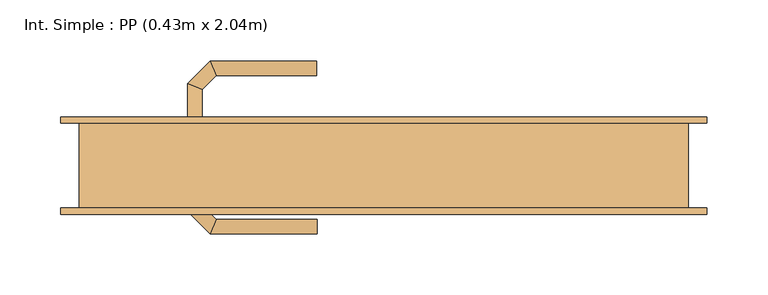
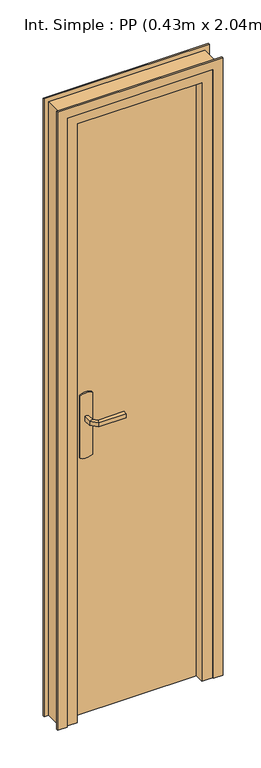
"""IFC4 building model written with IfcOpenShell, lengths in millimetres: door geometry, Int. Simple : PP (0.43m x 2.04m)."""

import ifcopenshell
import ifcopenshell.guid

model = None  # the IFC model being written
_history = None  # IfcOwnerHistory: only IFC2X3 demands one
_inside = {}  # id of a spatial element -> (the spatial element, [elements in it])
_under = {}  # id of a project, library or spatial element -> (it, [spatial elements below it])
_declared = {}  # id of a project -> (the project, [libraries it declares])
_typed = {}  # id of a type object -> (the type object, [elements of that type])
_made_of = {}  # id of a material, layer set ... -> (it, [elements and type objects made of it])


def new_model(schema):
    """Start an empty IFC model of exactly this schema.

    Asked for "IFC4X3", IfcOpenShell would pick the latest addendum, in which some entities
    have other attributes; the version numbers below select the first issue.
    IFC2X3 requires an IfcOwnerHistory on every rooted entity: one is made here for all.
    """
    global model, _history
    if schema == "IFC4X3":
        model = ifcopenshell.file(schema_version=(4, 3, 0, 0))
    else:
        model = ifcopenshell.file(schema=schema)
    _inside.clear()
    _under.clear()
    _declared.clear()
    _typed.clear()
    _made_of.clear()
    _history = None
    if model.schema == "IFC2X3":
        org = make("IfcOrganization", Name="unknown")
        user = make(
            "IfcPersonAndOrganization",
            ThePerson=make("IfcPerson", FamilyName="unknown"),
            TheOrganization=org,
        )
        app = make(
            "IfcApplication",
            ApplicationDeveloper=org,
            Version="unknown",
            ApplicationFullName="unknown",
            ApplicationIdentifier="unknown",
        )
        _history = make(
            "IfcOwnerHistory",
            OwningUser=user,
            OwningApplication=app,
            ChangeAction="ADDED",
            CreationDate=0,
        )
    return model


def make(cls, **values):
    """One entity of the class cls with the attributes given. An attribute that is None is left unset."""
    return model.create_entity(
        cls, **{name: value for name, value in values.items() if value is not None}
    )


def rooted(cls, **values):
    """An entity with a GlobalId (a new one), such as an element, a storey or a relation."""
    return make(cls, GlobalId=ifcopenshell.guid.new(), OwnerHistory=_history, **values)


def si_unit(unit_type, name, prefix=None):
    """IfcSIUnit, for example si_unit("LENGTHUNIT", "METRE", prefix="MILLI")."""
    return make("IfcSIUnit", UnitType=unit_type, Prefix=prefix, Name=name)


def assignment(units):
    """IfcUnitAssignment: the units of a project."""
    return None if units is None else make("IfcUnitAssignment", Units=units)


def point(xyz):
    """IfcCartesianPoint."""
    return None if xyz is None else make("IfcCartesianPoint", Coordinates=xyz)


def direction(xyz):
    """IfcDirection."""
    return None if xyz is None else make("IfcDirection", DirectionRatios=xyz)


def frame(location, z_axis=None, x_axis=None):
    """IfcAxis2Placement3D, a coordinate frame: its origin and axes. An axis left out is left unset."""
    return make(
        "IfcAxis2Placement3D",
        Location=point(location),
        Axis=direction(z_axis),
        RefDirection=direction(x_axis),
    )


def frame_2d(location, x_axis=None):
    """IfcAxis2Placement2D, a coordinate frame in the plane: its origin and x axis."""
    return make(
        "IfcAxis2Placement2D", Location=point(location), RefDirection=direction(x_axis)
    )


def origin():
    """The frame at (0, 0, 0) with its axes left unset."""
    return frame((0.0, 0.0, 0.0))


def origin_with_axes():
    """The frame at (0, 0, 0) with the z axis (0, 0, 1) and the x axis (1, 0, 0) written out."""
    return frame((0.0, 0.0, 0.0), z_axis=(0.0, 0.0, 1.0), x_axis=(1.0, 0.0, 0.0))


def place(relative_to, where):
    """IfcLocalPlacement: puts the frame where relative to a parent placement (None: the world)."""
    return make(
        "IfcLocalPlacement", PlacementRelTo=relative_to, RelativePlacement=where
    )


def context(
    kind, dimensions, precision=None, world=None, true_north=None, identifier=None
):
    """IfcGeometricRepresentationContext, for example the 3D "Model" context."""
    return make(
        "IfcGeometricRepresentationContext",
        ContextIdentifier=identifier,
        ContextType=kind,
        CoordinateSpaceDimension=dimensions,
        Precision=precision,
        WorldCoordinateSystem=world,
        TrueNorth=true_north,
    )


def project(units=None, contexts=None):
    """IfcProject with its units and contexts."""
    return rooted(
        "IfcProject",
        Name="project",
        RepresentationContexts=contexts,
        UnitsInContext=assignment(units),
    )


def spatial(cls, under=None, at=None, **own):
    """A site, building, storey or space (cls), placed at a placement, below another one or the project."""
    s = rooted(cls, ObjectPlacement=at, **own)
    if under is not None:
        _under.setdefault(under.id(), (under, []))[1].append(s)
    return s


def polyline(points):
    """IfcPolyline through the points."""
    return make("IfcPolyline", Points=[point(p) for p in points])


def circle_curve(where, radius):
    """IfcCircle in the frame where."""
    return make("IfcCircle", Position=where, Radius=radius)


def ellipse_curve(where, semi_axis1, semi_axis2):
    """IfcEllipse in the frame where."""
    return make(
        "IfcEllipse", Position=where, SemiAxis1=semi_axis1, SemiAxis2=semi_axis2
    )


def trimmed(basis, trim1, trim2, sense, master):
    """IfcTrimmedCurve: the piece of a basis curve between two trims."""
    return make(
        "IfcTrimmedCurve",
        BasisCurve=basis,
        Trim1=trim1,
        Trim2=trim2,
        SenseAgreement=sense,
        MasterRepresentation=master,
    )


def segment(curve, same_sense, transition):
    """IfcCompositeCurveSegment."""
    return make(
        "IfcCompositeCurveSegment",
        Transition=transition,
        SameSense=same_sense,
        ParentCurve=curve,
    )


def composite_curve(segments, self_intersect=None):
    """IfcCompositeCurve: segments joined end to end."""
    return make("IfcCompositeCurve", Segments=segments, SelfIntersect=self_intersect)


def outline(outer, holes=None, kind="AREA"):
    """IfcArbitraryClosedProfileDef: a profile drawn as a closed curve; with holes, ...WithVoids."""
    if holes is None:
        return make("IfcArbitraryClosedProfileDef", ProfileType=kind, OuterCurve=outer)
    return make(
        "IfcArbitraryProfileDefWithVoids",
        ProfileType=kind,
        OuterCurve=outer,
        InnerCurves=holes,
    )


def extrude(swept, where, along, depth):
    """IfcExtrudedAreaSolid: the profile swept, set in the frame where, extruded along a direction by depth."""
    return make(
        "IfcExtrudedAreaSolid",
        SweptArea=swept,
        Position=where,
        ExtrudedDirection=direction(along),
        Depth=depth,
    )


def faces_of(points, faces, orient=None, outer=None):
    """IfcFace entities. A face is a list of loops; a loop is a list of indices into points, from 0.

    orient and outer hold one flag for each loop. By default every Orientation is true, the
    first loop of a face is its IfcFaceOuterBound and the others are IfcFaceBound.
    """
    made = []
    for i, loops in enumerate(faces):
        bounds = []
        for j, loop in enumerate(loops):
            is_outer = j == 0 if outer is None else outer[i][j]
            bounds.append(
                make(
                    "IfcFaceOuterBound" if is_outer else "IfcFaceBound",
                    Bound=make("IfcPolyLoop", Polygon=[points[k] for k in loop]),
                    Orientation=True if orient is None else orient[i][j],
                )
            )
        made.append(make("IfcFace", Bounds=bounds))
    return made


def faceted_brep(points, faces, orient=None, outer=None, voids=None):
    """IfcFacetedBrep: a solid bounded by flat faces; with voids (closed shells), ...WithVoids."""
    shared = [point(p) for p in points]
    hull = make("IfcClosedShell", CfsFaces=faces_of(shared, faces, orient, outer))
    if voids is None:
        return make("IfcFacetedBrep", Outer=hull)
    return make(
        "IfcFacetedBrepWithVoids",
        Outer=hull,
        Voids=[
            make(cls, CfsFaces=faces_of(shared, fs, o, b)) for cls, fs, o, b in voids
        ],
    )


def shape(context_of_items, identifier, shape_type, items):
    """IfcShapeRepresentation: the items that make up one representation, for example the "Body"."""
    return make(
        "IfcShapeRepresentation",
        ContextOfItems=context_of_items,
        RepresentationIdentifier=identifier,
        RepresentationType=shape_type,
        Items=items,
    )


def source(mapping_origin, context_of_items, identifier, shape_type, items):
    """IfcRepresentationMap: a shape defined once, which mapped items show again and again."""
    return make(
        "IfcRepresentationMap",
        MappingOrigin=mapping_origin,
        MappedRepresentation=shape(context_of_items, identifier, shape_type, items),
    )


def transform(
    local_origin,
    x_axis=None,
    y_axis=None,
    z_axis=None,
    scale=None,
    scale2=None,
    scale3=None,
    uniform=True,
):
    """IfcCartesianTransformationOperator3D, or its non-uniform kind. x_axis, y_axis, z_axis: its Axis1, 2, 3."""
    if uniform:
        return make(
            "IfcCartesianTransformationOperator3D",
            Axis1=direction(x_axis),
            Axis2=direction(y_axis),
            LocalOrigin=point(local_origin),
            Scale=scale,
            Axis3=direction(z_axis),
        )
    return make(
        "IfcCartesianTransformationOperator3DnonUniform",
        Axis1=direction(x_axis),
        Axis2=direction(y_axis),
        LocalOrigin=point(local_origin),
        Scale=scale,
        Axis3=direction(z_axis),
        Scale2=scale2,
        Scale3=scale3,
    )


def mapped(mapping_source, mapping_target):
    """IfcMappedItem: shows the shape of a source again, moved by a transform."""
    return make(
        "IfcMappedItem", MappingSource=mapping_source, MappingTarget=mapping_target
    )


def made_of(thing, what):
    """Note that an element or type object is made of a material, layer set ...; save() writes the relation."""
    if what is not None:
        _made_of.setdefault(what.id(), (what, []))[1].append(thing)
    return thing


def element(
    cls,
    number,
    at=None,
    inside=None,
    cuts=None,
    type_object=None,
    material=None,
    context=None,
    identifier="Body",
    shape_type=None,
    held_by="IfcProductDefinitionShape",
    body=None,
    shapes=None,
    **own,
):
    """One element of the class cls, such as IfcWall. Its Tag is "e" and its number.

    at: its placement. inside: the storey or other place that contains it. cuts: it is an
    opening in that element (IfcRelVoidsElement). A single representation is given by context,
    identifier, shape_type and body (its items); several are given by shapes. held_by: the class
    of the entity that holds the representations. save() writes the other relations.
    """
    e = rooted(cls, Tag="e%d" % number, ObjectPlacement=at, **own)
    if body is not None:
        shapes = [shape(context, identifier, shape_type, body)]
    if shapes is not None:
        e.Representation = make(held_by, Representations=shapes)
    if inside is not None:
        _inside.setdefault(inside.id(), (inside, []))[1].append(e)
    if cuts is not None:
        rooted(
            "IfcRelVoidsElement", RelatingBuildingElement=cuts, RelatedOpeningElement=e
        )
    if type_object is not None:
        _typed.setdefault(type_object.id(), (type_object, []))[1].append(e)
    return made_of(e, material)


def aggregate(whole, parts):
    """IfcRelAggregates: a whole, such as a stair, and the parts it consists of."""
    return rooted("IfcRelAggregates", RelatingObject=whole, RelatedObjects=parts)


def save(model, path):
    """Write the relations noted so far, then the file.

    IfcRelAggregates (storeys below a building ...), IfcRelContainedInSpatialStructure (elements
    in a storey), IfcRelDefinesByType, IfcRelAssociatesMaterial and IfcRelDeclares: one each for
    every whole, place, type object, material and project.
    """
    for whole, parts in _under.values():
        aggregate(whole, parts)
    for where, things in _inside.values():
        rooted(
            "IfcRelContainedInSpatialStructure",
            RelatedElements=things,
            RelatingStructure=where,
        )
    for kind, things in _typed.values():
        rooted("IfcRelDefinesByType", RelatedObjects=things, RelatingType=kind)
    for what, things in _made_of.values():
        rooted("IfcRelAssociatesMaterial", RelatedObjects=things, RelatingMaterial=what)
    for by, libraries in _declared.values():
        rooted("IfcRelDeclares", RelatingContext=by, RelatedDefinitions=libraries)
    model.write(path)


def plane_surface(at):
    """IfcPlane: the flat surface through the origin of the frame at, square to its z axis."""
    return make("IfcPlane", Position=at)


def cylinder_surface(at, radius):
    """IfcCylindricalSurface: all points at the distance radius from the z axis of the frame at."""
    return make("IfcCylindricalSurface", Position=at, Radius=radius)


def advanced_brep(points, edges, surfaces, faces):
    """IfcAdvancedBrep: a solid bounded by faces that lie on surfaces and meet in shared edges.

    An edge is (start, end): straight between two places in points (the first is 0);
    or (start, end, curve); or (start, end, curve, False) where it runs against its curve.
    A face is (place in surfaces, loops), or (place, loops, False) where it looks against
    its surface's normal. A loop lists edges by number (the first is 1), with a minus sign
    where the edge is run from its end to its start. The first loop is the outer one.
    """
    corners = [point(p) for p in points]
    vertices = [make("IfcVertexPoint", VertexGeometry=c) for c in corners]
    made = []
    for start, end, *more in edges:
        made.append(
            make(
                "IfcEdgeCurve",
                EdgeStart=vertices[start],
                EdgeEnd=vertices[end],
                EdgeGeometry=more[0] if more else make("IfcPolyline", Points=[corners[start], corners[end]]),
                SameSense=more[1] if len(more) > 1 else True,
            )
        )
    hull = []
    for where, loops, *sense in faces:
        bounds = []
        for j, loop in enumerate(loops):
            ring = [make("IfcOrientedEdge", EdgeElement=made[abs(k) - 1], Orientation=k > 0) for k in loop]
            bounds.append(
                make(
                    "IfcFaceOuterBound" if j == 0 else "IfcFaceBound",
                    Bound=make("IfcEdgeLoop", EdgeList=ring),
                    Orientation=True,
                )
            )
        hull.append(make("IfcAdvancedFace", Bounds=bounds, FaceSurface=surfaces[where], SameSense=sense[0] if sense else True))
    return make("IfcAdvancedBrep", Outer=make("IfcClosedShell", CfsFaces=hull))


def int_simple_pp_0_43m_x_2_04m_93cda20a(model_context):
    return source(origin(), model_context, "Body", "SolidModel", [
        extrude(outline(composite_curve([segment(trimmed(circle_curve(frame_2d((904.6410162, -190.0)), 40.0), [point((870.0, -210.0))], [point((870.0, -170.0))], False, "CARTESIAN"), True, "CONTINUOUS"), segment(polyline([(870.0, -170.0), (1080.0, -170.0)]), True, "CONTINUOUS"), segment(trimmed(circle_curve(frame_2d((1045.3589838, -190.0)), 40.0), [point((1080.0, -170.0))], [point((1080.0, -210.0))], False, "CARTESIAN"), True, "CONTINUOUS"), segment(polyline([(1080.0, -210.0), (870.0, -210.0)]), True, "CONTINUOUS")], self_intersect=False)), frame((0.0, 35.0, 0.0), z_axis=(0.0, 1.0, 0.0), x_axis=(0.0, 0.0, 1.0)), (0.0, 0.0, 1.0), 5.0),
        extrude(outline(composite_curve([segment(trimmed(circle_curve(frame_2d((1045.3589838, -190.0)), 40.0), [point((1080.0, -170.0))], [point((1080.0, -210.0))], False, "CARTESIAN"), True, "CONTINUOUS"), segment(polyline([(1080.0, -210.0), (870.0, -210.0)]), True, "CONTINUOUS"), segment(trimmed(circle_curve(frame_2d((904.6410162, -190.0)), 40.0), [point((870.0, -210.0))], [point((870.0, -170.0))], False, "CARTESIAN"), True, "CONTINUOUS"), segment(polyline([(870.0, -170.0), (1080.0, -170.0)]), True, "CONTINUOUS")], self_intersect=False)), frame((0.0, -10.0, 0.0), z_axis=(0.0, 1.0, 0.0), x_axis=(0.0, 0.0, 1.0)), (0.0, 0.0, 1.0), 5.0),
        advanced_brep(
        [(-196.0, 40.0, 1007.0), (-196.0, 40.0, 993.0), (-184.0, 40.0, 993.0), (-184.0, 40.0, 1007.0), (-184.0, 62.680388, 1007.0), (-196.0, 67.6509507, 1007.0), (-184.0, 62.680388, 993.0), (-196.0, 67.6509507, 993.0), (-172.6522273, 74.0281607, 1007.0), (-177.62279, 86.0281607, 1007.0), (-172.6522273, 74.0281607, 993.0), (-177.62279, 86.0281607, 993.0), (-89.9813594, 86.0281607, 1007.0), (-89.9813594, 74.0281607, 1007.0), (-89.9813594, 74.0281607, 993.0), (-89.9813594, 86.0281607, 993.0)],
        [
            (0, 1),
            (1, 2, circle_curve(frame((-190.0, 40.0, 1013.0457722), z_axis=(0.0, -1.0, 0.0), x_axis=(1.0, 0.0, 0.0)), 20.9244589)),
            (2, 3),
            (3, 0, circle_curve(frame((-190.0, 40.0, 986.9542278), z_axis=(0.0, -1.0, 0.0), x_axis=(1.0, 0.0, 0.0)), 20.9244589)),
            (3, 4),
            (4, 5, ellipse_curve(frame((-190.0, 65.1656693, 986.9542278), z_axis=(-0.3826834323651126, -0.9238795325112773, 0.0), x_axis=(0.9238795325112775, -0.38268343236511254, 0.0)), 22.6484711, 20.9244589)),
            (5, 0),
            (2, 6),
            (6, 4),
            (1, 7),
            (7, 6, ellipse_curve(frame((-190.0, 65.1656693, 1013.0457722), z_axis=(-0.3826834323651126, -0.9238795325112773, 0.0), x_axis=(0.9238795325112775, -0.38268343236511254, 0.0)), 22.6484711, 20.9244589)),
            (5, 7),
            (4, 8),
            (8, 9, ellipse_curve(frame((-175.1375086, 80.0281607, 986.9542278), z_axis=(-0.9238795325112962, -0.38268343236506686, 0.0), x_axis=(0.3826834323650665, -0.9238795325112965, 0.0)), 22.6484711, 20.9244589)),
            (9, 5),
            (6, 10),
            (10, 8),
            (7, 11),
            (11, 10, ellipse_curve(frame((-175.1375086, 80.0281607, 1013.0457722), z_axis=(-0.9238795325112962, -0.38268343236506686, 0.0), x_axis=(0.3826834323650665, -0.9238795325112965, 0.0)), 22.6484711, 20.9244589)),
            (9, 11),
            (12, 13, circle_curve(frame((-89.9813594, 80.0281607, 986.9542278), z_axis=(1.0, 0.0, 0.0), x_axis=(0.0, -1.0, 0.0)), 20.9244589)),
            (13, 14),
            (14, 15, circle_curve(frame((-89.9813594, 80.0281607, 1013.0457722), z_axis=(1.0, 0.0, 0.0), x_axis=(0.0, -1.0, 0.0)), 20.9244589)),
            (15, 12),
            (8, 13),
            (12, 9),
            (10, 14),
            (11, 15),
        ],
        [
            plane_surface(frame((-199.2195445, 40.0, 1000.0), z_axis=(0.0, -1.0, 0.0), x_axis=(0.0, 0.0, -1.0))),
            cylinder_surface(frame((-190.0, 40.0, 986.9542278), z_axis=(0.0, -1.0, 0.0), x_axis=(1.0, 0.0, 0.0)), 20.9244589),
            plane_surface(frame((-184.0, 40.0, 1007.0), z_axis=(1.0, 0.0, 0.0), x_axis=(0.0, 1.0, 0.0))),
            cylinder_surface(frame((-190.0, 40.0, 1013.0457722), z_axis=(0.0, -1.0, 0.0), x_axis=(1.0, 0.0, 0.0)), 20.9244589),
            plane_surface(frame((-196.0, 40.0, 993.0), z_axis=(-1.0, 0.0, 0.0), x_axis=(0.0, 1.0, 0.0))),
            cylinder_surface(frame((-190.0, 65.1656693, 986.9542278), z_axis=(-0.7071067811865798, -0.7071067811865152, 0.0), x_axis=(0.7071067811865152, -0.7071067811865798, 0.0)), 20.9244589),
            plane_surface(frame((-184.0, 62.680388, 1007.0), z_axis=(0.7071067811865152, -0.7071067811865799, 0.0), x_axis=(0.7071067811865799, 0.7071067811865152, 0.0))),
            cylinder_surface(frame((-190.0, 65.1656693, 1013.0457722), z_axis=(-0.7071067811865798, -0.7071067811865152, 0.0), x_axis=(0.7071067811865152, -0.7071067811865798, 0.0)), 20.9244589),
            plane_surface(frame((-196.0, 67.6509507, 993.0), z_axis=(-0.7071067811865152, 0.7071067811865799, 0.0), x_axis=(0.7071067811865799, 0.7071067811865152, 0.0))),
            plane_surface(frame((-89.9813594, 80.0281607, 990.7804555), z_axis=(1.0, 0.0, 0.0), x_axis=(0.0, -1.0, 0.0))),
            cylinder_surface(frame((-175.1375086, 80.0281607, 986.9542278), z_axis=(-1.0, 0.0, 0.0), x_axis=(0.0, -1.0, 0.0)), 20.9244589),
            plane_surface(frame((-172.6522273, 74.0281607, 1007.0), z_axis=(0.0, -1.0, 0.0), x_axis=(1.0, 0.0, 0.0))),
            cylinder_surface(frame((-175.1375086, 80.0281607, 1013.0457722), z_axis=(-1.0, 0.0, 0.0), x_axis=(0.0, -1.0, 0.0)), 20.9244589),
            plane_surface(frame((-177.62279, 86.0281607, 993.0), z_axis=(0.0, 1.0, 0.0), x_axis=(1.0, 0.0, 0.0))),
        ],
        [
            (0, [[1, 2, 3, 4]]),
            (1, [[5, 6, 7, -4]]),
            (2, [[8, 9, -5, -3]]),
            (3, [[10, 11, -8, -2]]),
            (4, [[-7, 12, -10, -1]]),
            (5, [[13, 14, 15, -6]]),
            (6, [[16, 17, -13, -9]]),
            (7, [[18, 19, -16, -11]]),
            (8, [[-15, 20, -18, -12]]),
            (9, [[21, 22, 23, 24]]),
            (10, [[25, -21, 26, -14]]),
            (11, [[27, -22, -25, -17]]),
            (12, [[28, -23, -27, -19]]),
            (13, [[-26, -24, -28, -20]]),
        ],
    ),
        advanced_brep(
        [(-184.0, -10.0, 993.0), (-196.0, -10.0, 993.0), (-196.0, -10.0, 1007.0), (-184.0, -10.0, 1007.0), (-184.0, -32.4852045, 1007.0), (-184.0, -32.4852045, 993.0), (-196.0, -37.4557673, 1007.0), (-196.0, -37.4557673, 993.0), (-172.5147186, -43.9704859, 1007.0), (-172.5147186, -43.9704859, 993.0), (-177.4852814, -55.9704859, 1007.0), (-177.4852814, -55.9704859, 993.0), (-89.9542163, -43.9704859, 993.0), (-89.9542163, -43.9704859, 1007.0), (-89.9542163, -55.9704859, 1007.0), (-89.9542163, -55.9704859, 993.0)],
        [
            (0, 1, circle_curve(frame((-190.0, -10.0, 1013.0457722), z_axis=(0.0, 1.0, 0.0), x_axis=(-1.0, 0.0, 0.0)), 20.9244589)),
            (1, 2),
            (2, 3, circle_curve(frame((-190.0, -10.0, 986.9542278), z_axis=(0.0, 1.0, 0.0), x_axis=(-1.0, 0.0, 0.0)), 20.9244589)),
            (3, 0),
            (3, 4),
            (4, 5),
            (5, 0),
            (2, 6),
            (6, 4, ellipse_curve(frame((-190.0, -34.9704859, 986.9542278), z_axis=(-0.3826834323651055, 0.9238795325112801, 0.0), x_axis=(0.9238795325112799, 0.3826834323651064, 0.0)), 22.6484711, 20.9244589)),
            (1, 7),
            (7, 6),
            (5, 7, ellipse_curve(frame((-190.0, -34.9704859, 1013.0457722), z_axis=(-0.3826834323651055, 0.9238795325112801, 0.0), x_axis=(0.9238795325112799, 0.3826834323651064, 0.0)), 22.6484711, 20.9244589)),
            (4, 8),
            (8, 9),
            (9, 5),
            (6, 10),
            (10, 8, ellipse_curve(frame((-175.0, -49.9704859, 986.9542278), z_axis=(-0.9238795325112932, 0.382683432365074, 0.0), x_axis=(0.3826834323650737, 0.9238795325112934, 0.0)), 22.6484711, 20.9244589)),
            (7, 11),
            (11, 10),
            (9, 11, ellipse_curve(frame((-175.0, -49.9704859, 1013.0457722), z_axis=(-0.9238795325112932, 0.382683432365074, 0.0), x_axis=(0.3826834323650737, 0.9238795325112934, 0.0)), 22.6484711, 20.9244589)),
            (12, 13),
            (13, 14, circle_curve(frame((-89.9542163, -49.9704859, 986.9542278), z_axis=(1.0, 0.0, 0.0), x_axis=(0.0, -1.0, 0.0)), 20.9244589)),
            (14, 15),
            (15, 12, circle_curve(frame((-89.9542163, -49.9704859, 1013.0457722), z_axis=(1.0, 0.0, 0.0), x_axis=(0.0, -1.0, 0.0)), 20.9244589)),
            (8, 13),
            (12, 9),
            (10, 14),
            (11, 15),
        ],
        [
            plane_surface(frame((-199.2195445, -10.0, 1000.0), z_axis=(0.0, 1.0, 0.0), x_axis=(0.0, 0.0, 1.0))),
            plane_surface(frame((-184.0, -10.0, 993.0), z_axis=(1.0, 0.0, 0.0), x_axis=(0.0, -1.0, 0.0))),
            cylinder_surface(frame((-190.0, -10.0, 986.9542278), z_axis=(0.0, 1.0, 0.0), x_axis=(-1.0, 0.0, 0.0)), 20.9244589),
            plane_surface(frame((-196.0, -10.0, 1007.0), z_axis=(-1.0, 0.0, 0.0), x_axis=(0.0, -1.0, 0.0))),
            cylinder_surface(frame((-190.0, -10.0, 1013.0457722), z_axis=(0.0, 1.0, 0.0), x_axis=(-1.0, 0.0, 0.0)), 20.9244589),
            plane_surface(frame((-184.0, -32.4852045, 993.0), z_axis=(0.7071067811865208, 0.7071067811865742, 0.0), x_axis=(0.7071067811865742, -0.7071067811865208, 0.0))),
            cylinder_surface(frame((-190.0, -34.9704859, 986.9542278), z_axis=(-0.7071067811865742, 0.7071067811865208, 0.0), x_axis=(-0.7071067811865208, -0.7071067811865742, 0.0)), 20.9244589),
            plane_surface(frame((-196.0, -37.4557673, 1007.0), z_axis=(-0.7071067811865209, -0.7071067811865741, 0.0), x_axis=(0.7071067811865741, -0.7071067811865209, 0.0))),
            cylinder_surface(frame((-190.0, -34.9704859, 1013.0457722), z_axis=(-0.7071067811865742, 0.7071067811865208, 0.0), x_axis=(-0.7071067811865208, -0.7071067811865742, 0.0)), 20.9244589),
            plane_surface(frame((-89.9542163, -49.9704859, 990.7804555), z_axis=(1.0, 0.0, 0.0), x_axis=(0.0, -1.0, 0.0))),
            plane_surface(frame((-172.5147186, -43.9704859, 993.0), z_axis=(0.0, 1.0, 0.0), x_axis=(1.0, 0.0, 0.0))),
            cylinder_surface(frame((-175.0, -49.9704859, 986.9542278), z_axis=(-1.0, 0.0, 0.0), x_axis=(0.0, -1.0, 0.0)), 20.9244589),
            plane_surface(frame((-177.4852814, -55.9704859, 1007.0), z_axis=(0.0, -1.0, 0.0), x_axis=(1.0, 0.0, 0.0))),
            cylinder_surface(frame((-175.0, -49.9704859, 1013.0457722), z_axis=(-1.0, 0.0, 0.0), x_axis=(0.0, -1.0, 0.0)), 20.9244589),
        ],
        [
            (0, [[1, 2, 3, 4]]),
            (1, [[5, 6, 7, -4]]),
            (2, [[8, 9, -5, -3]]),
            (3, [[10, 11, -8, -2]]),
            (4, [[-7, 12, -10, -1]]),
            (5, [[13, 14, 15, -6]]),
            (6, [[16, 17, -13, -9]]),
            (7, [[18, 19, -16, -11]]),
            (8, [[-15, 20, -18, -12]]),
            (9, [[21, 22, 23, 24]]),
            (10, [[25, -21, 26, -14]]),
            (11, [[27, -22, -25, -17]]),
            (12, [[28, -23, -27, -19]]),
            (13, [[-26, -24, -28, -20]]),
        ],
    ),
        extrude(outline(polyline([(-250.0, -5.0), (-250.0, 35.0), (180.0, 35.0), (180.0, -5.0), (-250.0, -5.0)])), origin_with_axes(), (0.0, 0.0, 1.0), 2040.0),
        faceted_brep([(-285.0, 35.0, 0.0), (-250.0, 35.0, 0.0), (-250.0, -5.0, 0.0), (-235.0, -5.0, 0.0), (-235.0, -35.0, 0.0), (-285.0, -35.0, 0.0), (-285.0, -35.0, 2075.0), (-285.0, 35.0, 2075.0), (-235.0, -35.0, 2025.0), (165.0, -35.0, 2025.0), (165.0, -35.0, 0.0), (215.0, -35.0, 0.0), (215.0, -35.0, 2075.0), (-235.0, -5.0, 2025.0), (-250.0, -5.0, 2040.0), (180.0, -5.0, 2040.0), (180.0, -5.0, 0.0), (165.0, -5.0, 0.0), (165.0, -5.0, 2025.0), (-250.0, 35.0, 2040.0), (215.0, 35.0, 2075.0), (215.0, 35.0, 0.0), (180.0, 35.0, 0.0), (180.0, 35.0, 2040.0)], [[[0, 1, 2, 3, 4, 5]], [[5, 6, 7, 0]], [[4, 8, 9, 10, 11, 12, 6, 5]], [[3, 13, 8, 4]], [[2, 14, 15, 16, 17, 18, 13, 3]], [[1, 19, 14, 2]], [[0, 7, 20, 21, 22, 23, 19, 1]], [[12, 11, 21, 20]], [[21, 11, 10, 17, 16, 22]], [[18, 17, 10, 9]], [[23, 22, 16, 15]], [[6, 12, 20, 7]], [[13, 18, 9, 8]], [[19, 23, 15, 14]]]),
        extrude(outline(polyline([(0.0, -270.0), (2060.0, -270.0), (2060.0, 200.0), (0.0, 200.0), (0.0, 230.0), (2090.0, 230.0), (2090.0, -300.0), (0.0, -300.0), (0.0, -270.0)])), frame((0.0, 35.0, 0.0), z_axis=(0.0, 1.0, 0.0), x_axis=(0.0, 0.0, 1.0)), (0.0, 0.0, 1.0), 5.0),
        extrude(outline(polyline([(0.0, -270.0), (2060.0, -270.0), (2060.0, 200.0), (0.0, 200.0), (0.0, 230.0), (2090.0, 230.0), (2090.0, -300.0), (0.0, -300.0), (0.0, -270.0)])), frame((0.0, -40.0, 0.0), z_axis=(0.0, 1.0, 0.0), x_axis=(0.0, 0.0, 1.0)), (0.0, 0.0, 1.0), 5.0),
    ])


if __name__ == "__main__":
    model = new_model("IFC4")
    model_context = context("Model", 3, world=origin())
    ifc_project = project(units=[si_unit("LENGTHUNIT", "METRE", prefix="MILLI")], contexts=[model_context])
    site = spatial("IfcSite", under=ifc_project)
    building = spatial("IfcBuilding", under=site)
    placement = place(None, origin())
    int_simple_pp_0_43m_x_2_04m_shape = int_simple_pp_0_43m_x_2_04m_93cda20a(model_context)
    element("IfcDoor", 1, ObjectType="Int. Simple : PP (0.43m x 2.04m)", at=placement, inside=building, context=model_context, shape_type="MappedRepresentation", body=[
        mapped(int_simple_pp_0_43m_x_2_04m_shape, transform((0.0, 0.0, 0.0), x_axis=(1.0, 0.0, 0.0), y_axis=(0.0, 1.0, 0.0), z_axis=(0.0, 0.0, 1.0))),
    ])
    save(model, "model.ifc")
